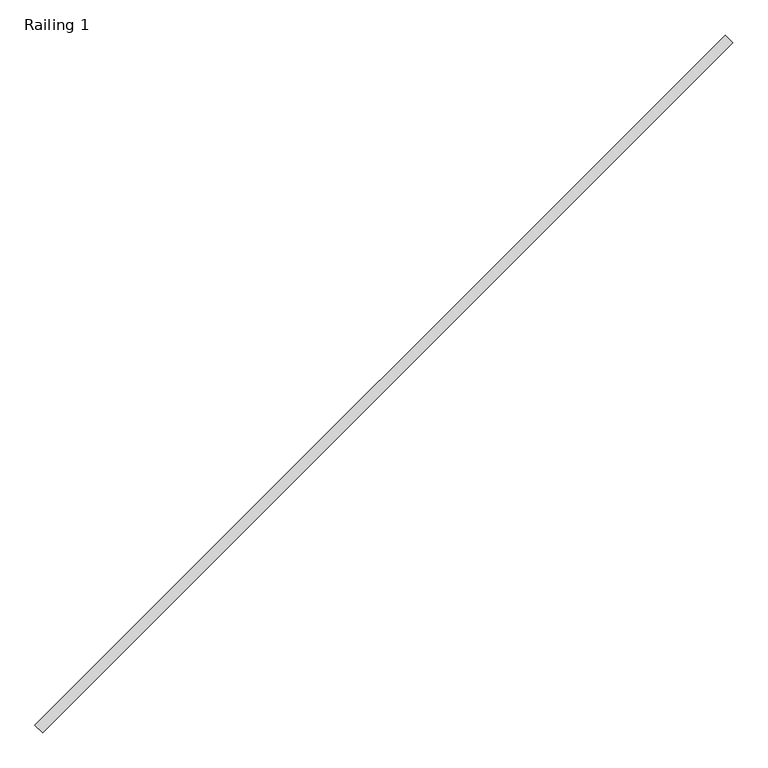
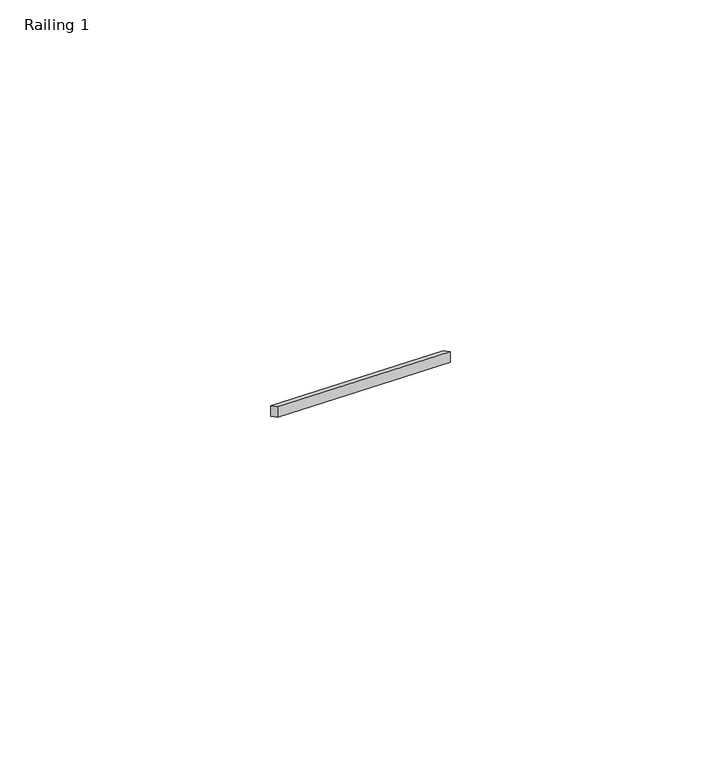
"""IFC4 building model written with IfcOpenShell, lengths in millimetres: railing geometry, Railing 1."""

from ifc_helpers import new_model, si_unit, frame, origin, place, context, project, spatial, polyline, outline, extrude, source, transform, mapped, element, save


def railing_1_6d40baea(model_context):
    return source(origin(), model_context, "Body", "SweptSolid", [
        extrude(outline(polyline([(-43.8546875, -76.2), (0.0, 0.0), (5275.1137444, 0.0), (5231.2590569, -76.2), (-43.8546875, -76.2)])), frame((-16210.2917625, -26252.9899559, -4917.28125), z_axis=(-0.7071067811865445, 0.7071067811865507, 0.0), x_axis=(-0.6128573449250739, -0.6128573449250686, 0.4988103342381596)), (0.0, 0.0, 1.0), 50.8),
    ])


if __name__ == "__main__":
    model = new_model("IFC4")
    model_context = context("Model", 3, world=origin())
    ifc_project = project(units=[si_unit("LENGTHUNIT", "METRE", prefix="MILLI")], contexts=[model_context])
    site = spatial("IfcSite", under=ifc_project)
    building = spatial("IfcBuilding", under=site)
    placement = place(None, origin())
    railing_1_shape = railing_1_6d40baea(model_context)
    element("IfcRailing", 1, ObjectType="Railing 1", at=placement, inside=building, context=model_context, shape_type="MappedRepresentation", body=[
        mapped(railing_1_shape, transform((0.0, 0.0, 0.0), x_axis=(1.0, 0.0, 0.0), y_axis=(0.0, 1.0, 0.0), z_axis=(0.0, 0.0, 1.0))),
    ])
    save(model, "model.ifc")
